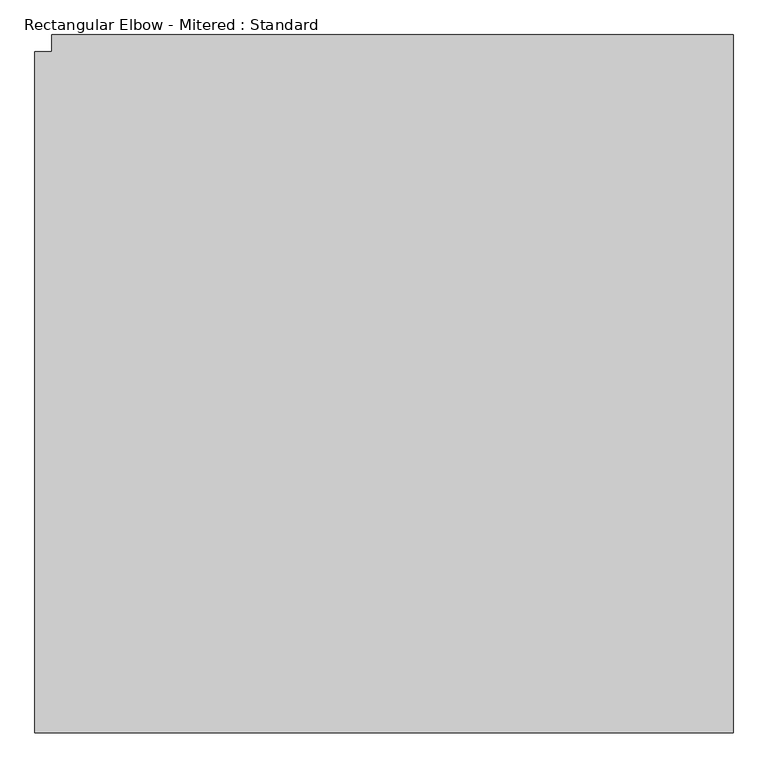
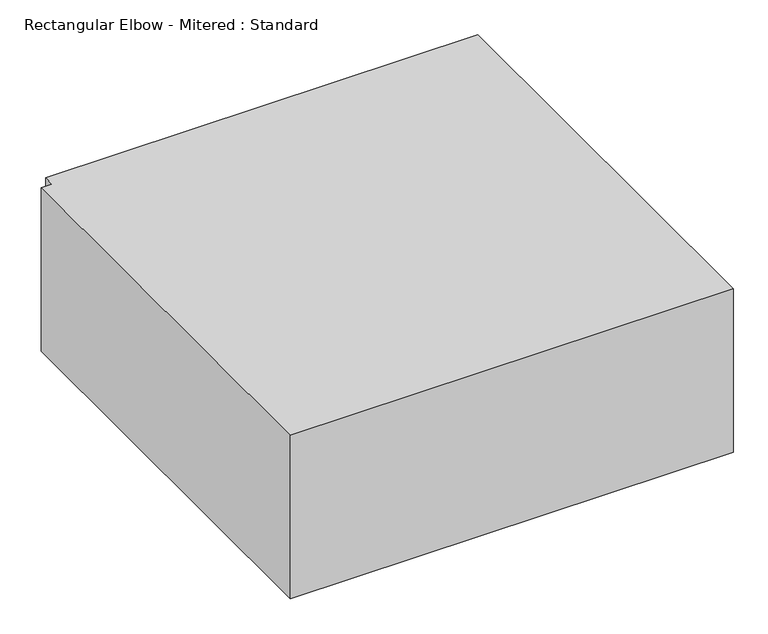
"""IFC4 building model written with IfcOpenShell, lengths in millimetres: duct fitting geometry, Rectangular Elbow - Mitered : Standard."""

from ifc_helpers import new_model, si_unit, frame, origin, place, context, project, spatial, polyline, outline, extrude, source, transform, mapped, element, save


def rectangular_elbow_mitered_standard_36f4f60f(model_context):
    return source(origin(), model_context, "Body", "SweptSolid", [
        extrude(outline(polyline([(-533.4, -508.0), (-533.4, 508.0), (-508.0, 508.0), (-508.0, 533.4), (508.0, 533.4), (508.0, -508.0), (-533.4, -508.0)])), frame((0.0, 0.0, -203.2), z_axis=(0.0, 0.0, 1.0), x_axis=(1.0, 0.0, 0.0)), (0.0, 0.0, 1.0), 406.4),
    ])


if __name__ == "__main__":
    model = new_model("IFC4")
    model_context = context("Model", 3, world=origin())
    ifc_project = project(units=[si_unit("LENGTHUNIT", "METRE", prefix="MILLI")], contexts=[model_context])
    site = spatial("IfcSite", under=ifc_project)
    building = spatial("IfcBuilding", under=site)
    placement = place(None, origin())
    rectangular_elbow_mitered_standard_shape = rectangular_elbow_mitered_standard_36f4f60f(model_context)
    element("IfcDuctFitting", 1, ObjectType="Rectangular Elbow - Mitered : Standard", at=placement, inside=building, context=model_context, shape_type="MappedRepresentation", body=[
        mapped(rectangular_elbow_mitered_standard_shape, transform((0.0, 0.0, 0.0), x_axis=(1.0, 0.0, 0.0), y_axis=(0.0, 1.0, 0.0), z_axis=(0.0, 0.0, 1.0))),
    ])
    save(model, "model.ifc")
